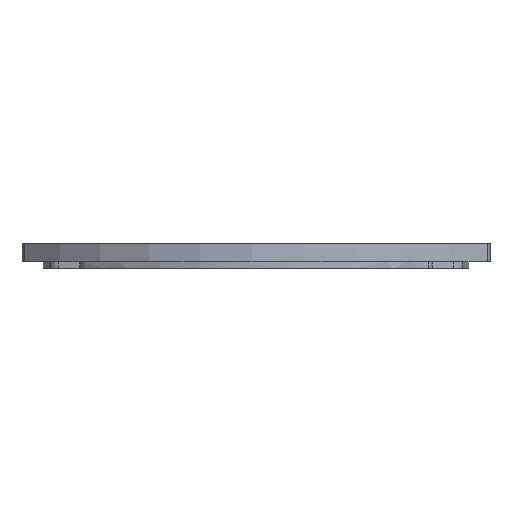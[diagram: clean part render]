
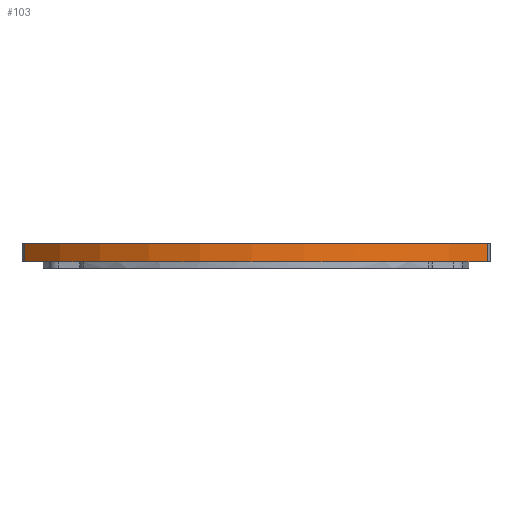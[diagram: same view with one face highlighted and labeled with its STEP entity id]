
A CAD part, front view. The second image highlights one B-rep face of the part: STEP entity #103.
In plain terms, the highlighted cylindrical face has radius 138.5 mm (diameter 277 mm), a partial arc.
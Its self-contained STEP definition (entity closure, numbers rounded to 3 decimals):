
#103=ADVANCED_FACE('',(#215),#1864,.T.);
#215=FACE_OUTER_BOUND('',#342,.T.);
#342=EDGE_LOOP('',(#826,#827,#828,#829));
#826=ORIENTED_EDGE('',*,*,#1185,.T.);
#827=ORIENTED_EDGE('',*,*,#1188,.T.);
#828=ORIENTED_EDGE('',*,*,#1187,.T.);
#829=ORIENTED_EDGE('',*,*,#1186,.F.);
#1185=EDGE_CURVE('',#1766,#1701,#1553,.T.);
#1186=EDGE_CURVE('',#1766,#1765,#1390,.T.);
#1187=EDGE_CURVE('',#1702,#1765,#1554,.T.);
#1188=EDGE_CURVE('',#1701,#1702,#1391,.T.);
#1390=(
BOUNDED_CURVE()
B_SPLINE_CURVE(2,(#3240,#3241,#3242,#3243,#3244),.UNSPECIFIED.,.F.,.F.)
B_SPLINE_CURVE_WITH_KNOTS((3,2,3),(0.,115.073,230.145),
 .UNSPECIFIED.)
CURVE()
GEOMETRIC_REPRESENTATION_ITEM()
RATIONAL_B_SPLINE_CURVE((1.,0.915,1.,0.915,1.))
REPRESENTATION_ITEM('')
);
#1391=(
BOUNDED_CURVE()
B_SPLINE_CURVE(2,(#3247,#3248,#3249,#3250,#3251),.UNSPECIFIED.,.F.,.F.)
B_SPLINE_CURVE_WITH_KNOTS((3,2,3),(-230.145,-115.073,
0.),.UNSPECIFIED.)
CURVE()
GEOMETRIC_REPRESENTATION_ITEM()
RATIONAL_B_SPLINE_CURVE((1.,0.915,1.,0.915,1.))
REPRESENTATION_ITEM('')
);
#1553=B_SPLINE_CURVE_WITH_KNOTS('',1,(#3238,#3239),.UNSPECIFIED.,.F.,.F.,
(2,2),(-8.,0.),.UNSPECIFIED.);
#1554=B_SPLINE_CURVE_WITH_KNOTS('',1,(#3245,#3246),.UNSPECIFIED.,.F.,.F.,
(2,2),(-8.,0.),.UNSPECIFIED.);
#1701=VERTEX_POINT('',#2563);
#1702=VERTEX_POINT('',#2564);
#1765=VERTEX_POINT('',#2627);
#1766=VERTEX_POINT('',#2628);
#1864=CYLINDRICAL_SURFACE('',#2067,138.5);
#2067=AXIS2_PLACEMENT_3D('',#2425,#2174,$);
#2174=DIRECTION('',(0.,0.,-1.));
#2425=CARTESIAN_POINT('',(0.,2.62,-200.4));
#2563=CARTESIAN_POINT('',(102.283,-90.763,-196.4));
#2564=CARTESIAN_POINT('',(-102.283,-90.763,-196.4));
#2627=CARTESIAN_POINT('',(-102.283,-90.763,-204.4));
#2628=CARTESIAN_POINT('',(102.283,-90.763,-204.4));
#3238=CARTESIAN_POINT('',(102.283,-90.763,-204.4));
#3239=CARTESIAN_POINT('',(102.283,-90.763,-196.4));
#3240=CARTESIAN_POINT('',(102.283,-90.763,-204.4));
#3241=CARTESIAN_POINT('',(61.092,-135.88,-204.4));
#3242=CARTESIAN_POINT('',(0.,-135.88,-204.4));
#3243=CARTESIAN_POINT('',(-61.092,-135.88,-204.4));
#3244=CARTESIAN_POINT('',(-102.283,-90.763,-204.4));
#3245=CARTESIAN_POINT('',(-102.283,-90.763,-196.4));
#3246=CARTESIAN_POINT('',(-102.283,-90.763,-204.4));
#3247=CARTESIAN_POINT('',(102.283,-90.763,-196.4));
#3248=CARTESIAN_POINT('',(61.092,-135.88,-196.4));
#3249=CARTESIAN_POINT('',(0.,-135.88,-196.4));
#3250=CARTESIAN_POINT('',(-61.092,-135.88,-196.4));
#3251=CARTESIAN_POINT('',(-102.283,-90.763,-196.4));
